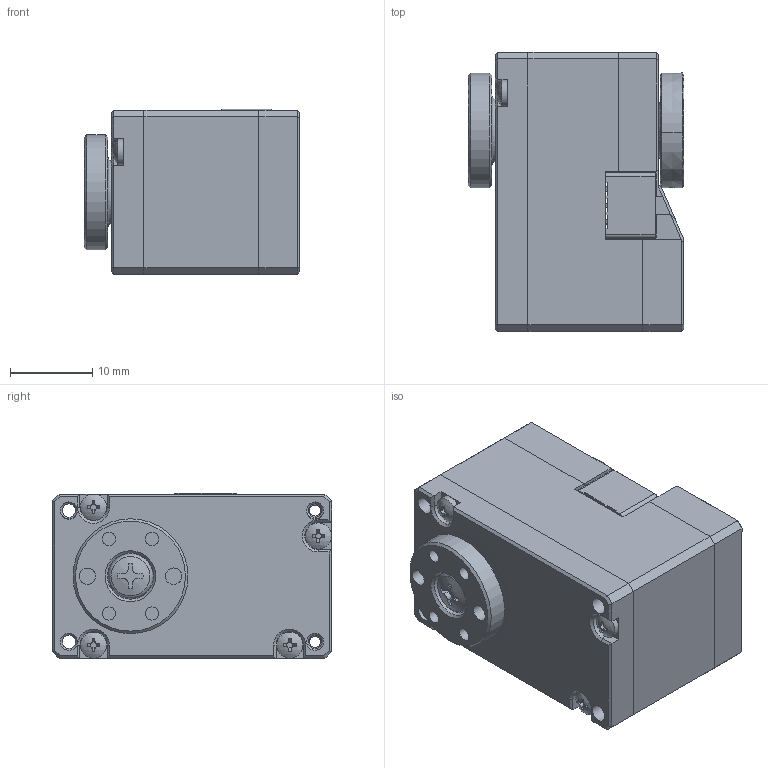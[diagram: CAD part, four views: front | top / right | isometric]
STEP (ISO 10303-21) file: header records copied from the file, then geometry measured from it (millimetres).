
FILE_DESCRIPTION (( 'STEP AP203' ), '1' );
FILE_NAME ('嗆儂J288潠趙耀倰.STEP', '2026-09-14T09:06:14', ( '' ), ( '' ), 'SwSTEP 2.0', 'SolidWorks 2023', '' );
FILE_SCHEMA (( 'CONFIG_CONTROL_DESIGN' ));
Length unit declared in the file: millimetre
Products named in the file (1): 舵机J288简化模型
Bounding box: 26.3 x 34 x 20.15 mm (x, y, z)
Surface area: 10791.4 mm2 (no closed solid volume)
Topology: 0 solids, 16 shells, 850 faces, 2260 edges, 1479 vertices
Faces by surface type: plane 492, cylinder 264, cone 80, torus 6, sphere 5, bspline 3
Full cylindrical faces by diameter (mm): 1.25 x4, 1.6 x9, 1.65 x4, 1.7 x6, 2 x3, 2.1 x8, 2.6 x2, 3.2 x4, 4 x1, 5 x1, 5.6 x1, 6 x1, 7 x1, 7.6 x1, 7.8 x1, 8 x2, 9.4 x1, 13 x1, 14 x2
Entity records: 26189 total; most frequent: CARTESIAN_POINT 4943, DIRECTION 4442, ORIENTED_EDGE 4311, EDGE_CURVE 2156, AXIS2_PLACEMENT_3D 1529, VERTEX_POINT 1444, VECTOR 1384, LINE 1384
